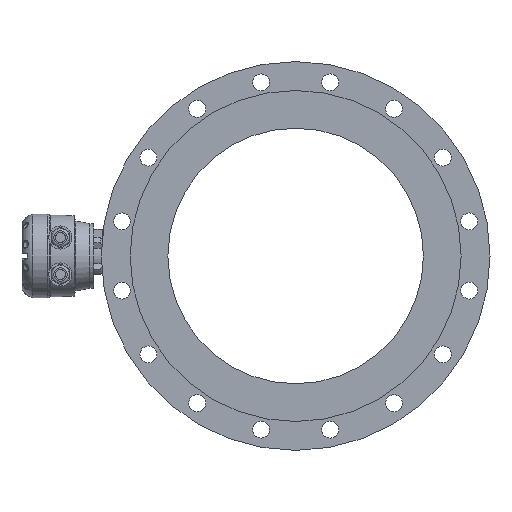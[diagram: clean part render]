
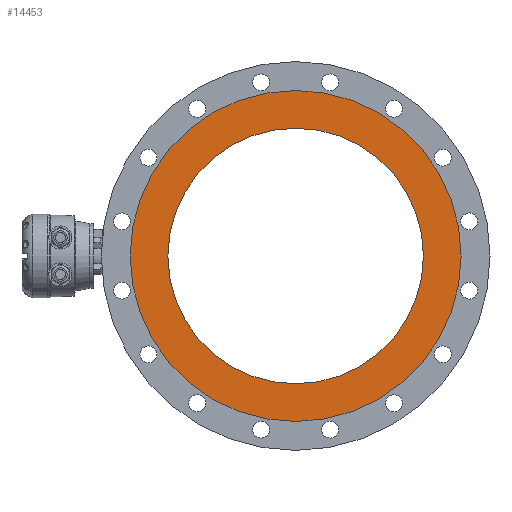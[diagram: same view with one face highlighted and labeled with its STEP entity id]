
A CAD part, left-side view. The second image highlights one B-rep face of the part: STEP entity #14453.
In plain terms, the highlighted planar face has unit normal (-1, 0, 0).
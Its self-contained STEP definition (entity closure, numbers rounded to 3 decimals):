
#3364 = PLANE ( 'NONE',  #10557 ) ;
#3485 = CARTESIAN_POINT ( 'NONE',  ( -244.805, -90.017, -10.543 ) ) ;
#3506 = DIRECTION ( 'NONE',  ( -1., 0., 0. ) ) ;
#3508 = DIRECTION ( 'NONE',  ( 0., 0., 1. ) ) ;
#3991 = VERTEX_POINT ( 'NONE', #3993 ) ;
#3993 = CARTESIAN_POINT ( 'NONE',  ( -244.805, -256.017, -176.543 ) ) ;
#4011 = VERTEX_POINT ( 'NONE', #4013 ) ;
#4013 = CARTESIAN_POINT ( 'NONE',  ( -244.805, -256.017, 204.457 ) ) ;
#5759 = ORIENTED_EDGE ( 'NONE', *, *, #7732, .T. ) ;
#5761 = ORIENTED_EDGE ( 'NONE', *, *, #7786, .T. ) ;
#5882 = EDGE_LOOP ( 'NONE', ( #5761 ) ) ;
#6008 = EDGE_LOOP ( 'NONE', ( #5759 ) ) ;
#7213 = CIRCLE ( 'NONE', #10067, 166. ) ;
#7288 = CIRCLE ( 'NONE', #10075, 215. ) ;
#7732 = EDGE_CURVE ( 'NONE', #3991, #3991, #7213, .T. ) ;
#7786 = EDGE_CURVE ( 'NONE', #4011, #4011, #7288, .T. ) ;
#8056 = DIRECTION ( 'NONE',  ( 0., 0., 1. ) ) ;
#8058 = DIRECTION ( 'NONE',  ( -1., 0., 0. ) ) ;
#8091 = CARTESIAN_POINT ( 'NONE',  ( -244.805, -256.017, -10.543 ) ) ;
#8228 = DIRECTION ( 'NONE',  ( 0., 0., -1. ) ) ;
#8229 = DIRECTION ( 'NONE',  ( 1., 0., 0. ) ) ;
#8234 = CARTESIAN_POINT ( 'NONE',  ( -244.805, -256.017, -10.543 ) ) ;
#9640 = FACE_OUTER_BOUND ( 'NONE', #5882, .T. ) ;
#9641 = FACE_BOUND ( 'NONE', #6008, .T. ) ;
#10067 = AXIS2_PLACEMENT_3D ( 'NONE', #8234, #8229, #8228 ) ;
#10075 = AXIS2_PLACEMENT_3D ( 'NONE', #8091, #8058, #8056 ) ;
#10557 = AXIS2_PLACEMENT_3D ( 'NONE', #3485, #3506, #3508 ) ;
#14453 = ADVANCED_FACE ( 'NONE', ( #9641, #9640 ), #3364, .T. ) ;
